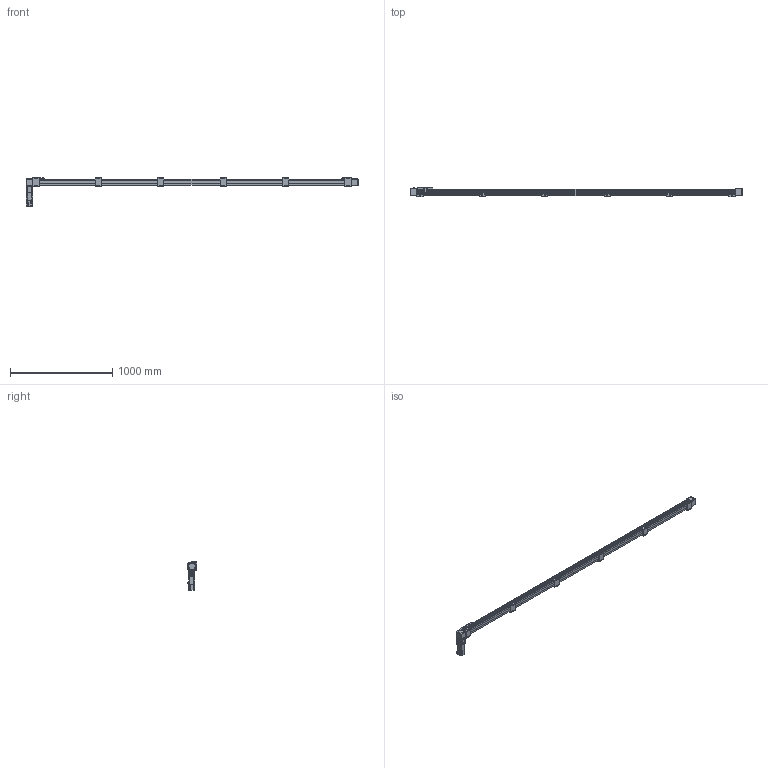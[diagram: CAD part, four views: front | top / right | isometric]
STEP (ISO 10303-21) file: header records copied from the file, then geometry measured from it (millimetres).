
FILE_DESCRIPTION(/* description */ ('STEP AP214'),/* implementation_level */ '2;1');
FILE_NAME(/* name */ 'SK60-P13-S2950-BR-T40-C1-N(0)',/* time_stamp */ '2023-04-06T04:03:34+02:00',/* author */ ('License CC BY-ND 4.0'),/* organization */ ('CADENAS'),/* preprocessor_version */ 'ST-DEVELOPER v19.3',/* originating_system */ 'PARTsolutions',/* authorisation */ ' ');
FILE_SCHEMA (('AUTOMOTIVE_DESIGN {1 0 10303 214 3 1 1}'));
Length unit declared in the file: millimetre
Products named in the file (11): SK60-P13-S2950-BR-T40-C1-N(0); PSC140-sensor; SK60-S450_seat; SK60-S450-BL-C1_slider; SK60_body3; SK60_body6; SK60-BL_body2; T40-p1; SK60_body5; SK60_body4; SK60-S2950-BR-C1_body
Assembly tree (21 placements, depth 2):
  SK60-P13-S2950-BR-T40-C1-N(0)
    PSC140-sensor  x3
    SK60-S450_seat  x6
    SK60-S450-BL-C1_slider
    SK60_body3  x3
    SK60_body6  x2
    SK60-BL_body2  x2
    T40-p1
    SK60_body5
    SK60_body4
    SK60-S2950-BR-C1_body
Bounding box: 3250 x 90 x 279.1 mm (x, y, z)
Volume: 11619236.1 mm3; surface area: 1396124.1 mm2
Topology: 21 solids, 25 shells, 1010 faces, 2501 edges, 1650 vertices
Faces by surface type: plane 640, cylinder 330, cone 38, torus 2
Full cylindrical faces by diameter (mm): 2.8 x3, 3.3 x4, 4.2 x8, 4.5 x26, 4.6 x3, 4.917 x32, 5 x2, 5.478 x4, 5.5 x35, 6.5 x12, 8 x4, 8.5 x4, 9.988 x4, 10 x24, 13.556 x1, 14 x1, 14.586 x1, 19.692 x1, 38.432 x2, 43 x1, 44 x3, 47 x2, 50 x2
Entity records: 19403 total; most frequent: DIRECTION 3300, CARTESIAN_POINT 3293, ORIENTED_EDGE 3050, EDGE_CURVE 1525, AXIS2_PLACEMENT_3D 1104, LINE 1092, VECTOR 1092, VERTEX_POINT 1077
